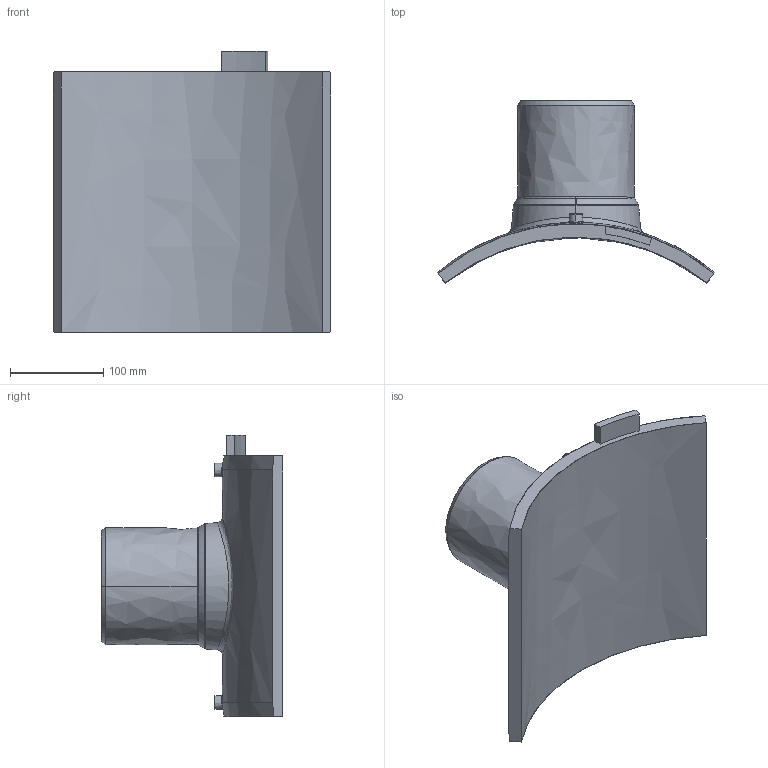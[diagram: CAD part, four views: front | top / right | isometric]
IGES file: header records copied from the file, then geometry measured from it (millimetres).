
Start section:  PTC IGES file: sa-uni_d450_125_01.igs
Global section: file name: sa-uni_d450_125_01.igs; native system: Pro/ENGINEER by Parametric Technology Corporation; preprocessor: 2011490; author: MikulicP; organization: Unknown; date: 20170206.154633; units: millimetre
Bounding box: 297 x 194.71 x 301 mm (x, y, z)
Surface area: 296035.8 mm2 (no closed solid volume)
Topology: 0 solids, 0 shells, 200 faces, 984 edges, 984 vertices
Faces by surface type: bspline 200
